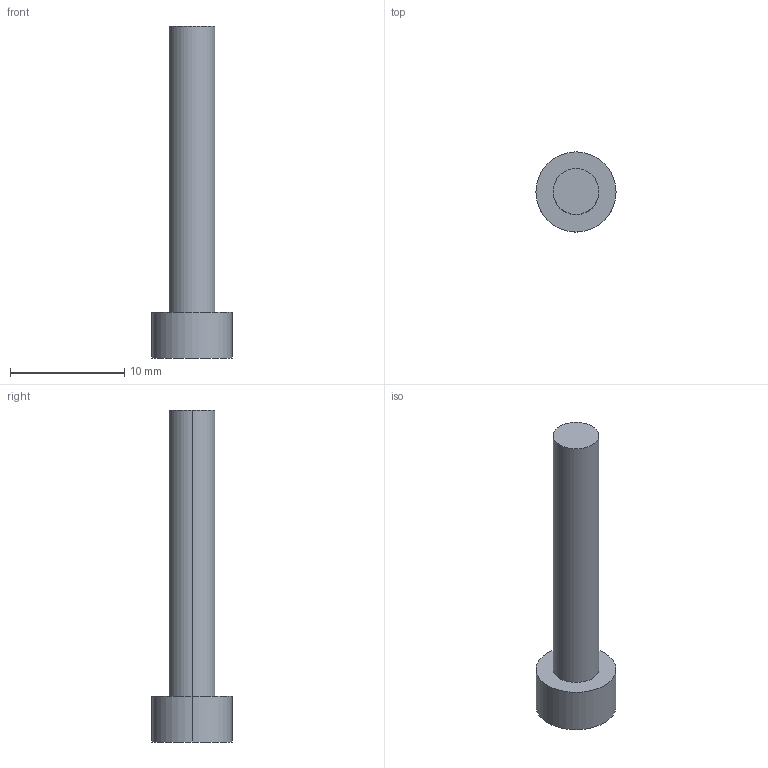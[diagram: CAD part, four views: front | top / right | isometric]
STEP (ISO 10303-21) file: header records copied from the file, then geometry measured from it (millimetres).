
FILE_DESCRIPTION (( 'STEP AP203' ), '1' );
FILE_NAME ('REF_M4x25_screw.step', '2026-10-07T08:22:46', ( '' ), ( '' ), 'SwSTEP 2.0', 'SolidWorks 2025', '' );
FILE_SCHEMA (( 'CONFIG_CONTROL_DESIGN' ));
Length unit declared in the file: millimetre
Products named in the file (1): REF_M4x25_screw
Bounding box: 7 x 7 x 29 mm (x, y, z)
Volume: 468.1 mm3; surface area: 479.1 mm2
Topology: 1 solids, 1 shells, 7 faces, 12 edges, 8 vertices
Faces by surface type: cylinder 4, plane 3
Entity records: 251 total; most frequent: DIRECTION 36, CARTESIAN_POINT 28, ORIENTED_EDGE 24, AXIS2_PLACEMENT_3D 16, EDGE_CURVE 12, CIRCLE 8, VERTEX_POINT 8, PERSON_AND_ORGANIZATION 8
